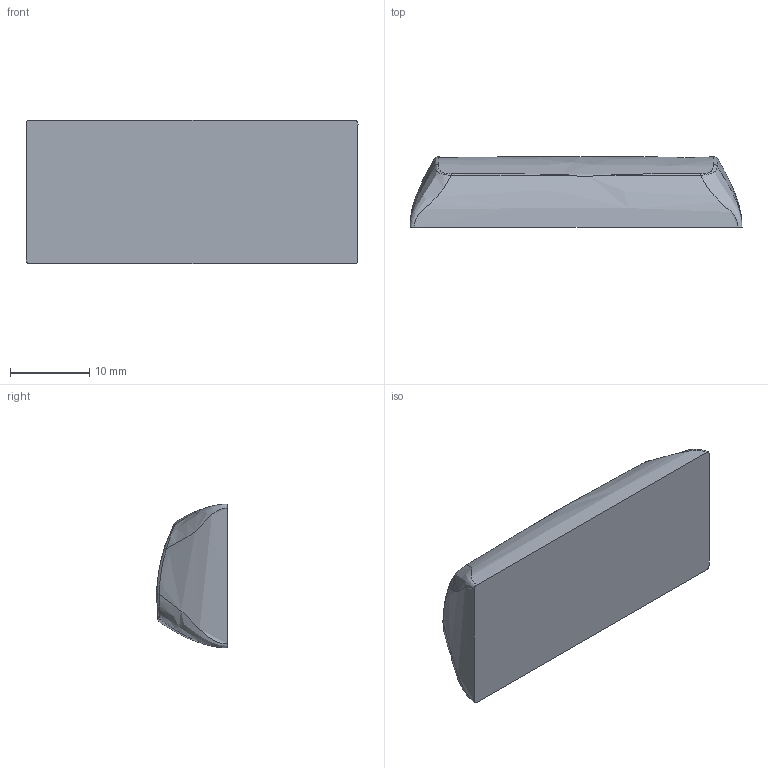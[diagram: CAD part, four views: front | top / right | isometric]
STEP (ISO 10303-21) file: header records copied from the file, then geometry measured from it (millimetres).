
FILE_DESCRIPTION (( 'STEP AP203' ), '1' );
FILE_NAME ('R4_Spacebar_2.25U_v3.2_GMK.STEP', '2023-03-07T11:13:18', ( '' ), ( '' ), 'SwSTEP 2.0', 'SolidWorks 2022', '' );
FILE_SCHEMA (( 'CONFIG_CONTROL_DESIGN' ));
Length unit declared in the file: millimetre
Products named in the file (1): R4_Spacebar_2.25U_v3.2_GMK
Bounding box: 42.01 x 8.96 x 18.2 mm (x, y, z)
Volume: 5288.8 mm3; surface area: 2144 mm2
Topology: 1 solids, 1 shells, 18 faces, 40 edges, 24 vertices
Faces by surface type: bspline 17, plane 1
Entity records: 2783 total; most frequent: CARTESIAN_POINT 2452, ORIENTED_EDGE 80, EDGE_CURVE 40, B_SPLINE_CURVE_WITH_KNOTS 28, VERTEX_POINT 24, FACE_OUTER_BOUND 18, EDGE_LOOP 18, ADVANCED_FACE 18
